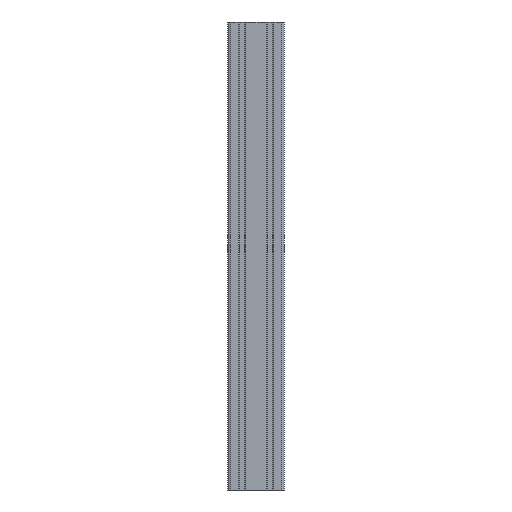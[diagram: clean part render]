
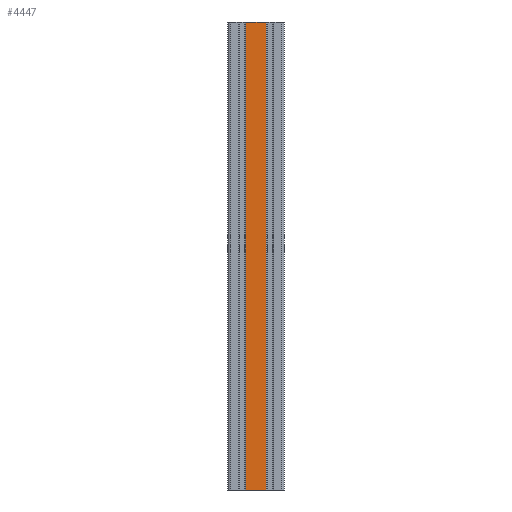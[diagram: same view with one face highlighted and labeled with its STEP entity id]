
A CAD part, front view. The second image highlights one B-rep face of the part: STEP entity #4447.
In plain terms, the highlighted planar face has unit normal (0, -1, 0).
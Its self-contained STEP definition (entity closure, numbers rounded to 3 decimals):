
#458 = VERTEX_POINT ( 'NONE', #3278 ) ;
#464 = EDGE_CURVE ( 'NONE', #458, #593, #3267, .T. ) ;
#593 = VERTEX_POINT ( 'NONE', #3501 ) ;
#1801 = EDGE_CURVE ( 'NONE', #1877, #1883, #5995, .T. ) ;
#1877 = VERTEX_POINT ( 'NONE', #6102 ) ;
#1883 = VERTEX_POINT ( 'NONE', #6138 ) ;
#3259 = DIRECTION ( 'NONE',  ( 1., 0., 0. ) ) ;
#3260 = VECTOR ( 'NONE', #3259, 1000. ) ;
#3266 = CARTESIAN_POINT ( 'NONE',  ( -15566.622, -12937.956, 0. ) ) ;
#3267 = LINE ( 'NONE', #3266, #3260 ) ;
#3278 = CARTESIAN_POINT ( 'NONE',  ( -15566.622, -12937.956, 0. ) ) ;
#3501 = CARTESIAN_POINT ( 'NONE',  ( -15544.972, -12937.956, 0. ) ) ;
#4385 = EDGE_CURVE ( 'NONE', #1877, #458, #7707, .T. ) ;
#4410 = ORIENTED_EDGE ( 'NONE', *, *, #1801, .F. ) ;
#4447 = ADVANCED_FACE ( 'NONE', ( #7799 ), #7797, .F. ) ;
#4448 = EDGE_LOOP ( 'NONE', ( #4449, #4453, #4410, #4454 ) ) ;
#4449 = ORIENTED_EDGE ( 'NONE', *, *, #464, .T. ) ;
#4451 = EDGE_CURVE ( 'NONE', #1883, #593, #6826, .T. ) ;
#4453 = ORIENTED_EDGE ( 'NONE', *, *, #4451, .F. ) ;
#4454 = ORIENTED_EDGE ( 'NONE', *, *, #4385, .T. ) ;
#5978 = DIRECTION ( 'NONE',  ( 1., 0., 0. ) ) ;
#5979 = VECTOR ( 'NONE', #5978, 1000. ) ;
#5980 = CARTESIAN_POINT ( 'NONE',  ( -15566.622, -12937.956, 500. ) ) ;
#5995 = LINE ( 'NONE', #5980, #5979 ) ;
#6102 = CARTESIAN_POINT ( 'NONE',  ( -15566.622, -12937.956, 500. ) ) ;
#6138 = CARTESIAN_POINT ( 'NONE',  ( -15544.972, -12937.956, 500. ) ) ;
#6808 = VECTOR ( 'NONE', #6822, 1000. ) ;
#6822 = DIRECTION ( 'NONE',  ( 0., 0., -1. ) ) ;
#6826 = LINE ( 'NONE', #6832, #6808 ) ;
#6832 = CARTESIAN_POINT ( 'NONE',  ( -15544.972, -12937.956, 500. ) ) ;
#7705 = DIRECTION ( 'NONE',  ( 0., 0., -1. ) ) ;
#7706 = VECTOR ( 'NONE', #7705, 1000. ) ;
#7707 = LINE ( 'NONE', #7712, #7706 ) ;
#7712 = CARTESIAN_POINT ( 'NONE',  ( -15566.622, -12937.956, 500. ) ) ;
#7791 = DIRECTION ( 'NONE',  ( 0., 0., 1. ) ) ;
#7792 = DIRECTION ( 'NONE',  ( 0., 1., 0. ) ) ;
#7797 = PLANE ( 'NONE',  #7813 ) ;
#7798 = CARTESIAN_POINT ( 'NONE',  ( -15566.622, -12937.956, 500. ) ) ;
#7799 = FACE_OUTER_BOUND ( 'NONE', #4448, .T. ) ;
#7813 = AXIS2_PLACEMENT_3D ( 'NONE', #7798, #7792, #7791 ) ;
